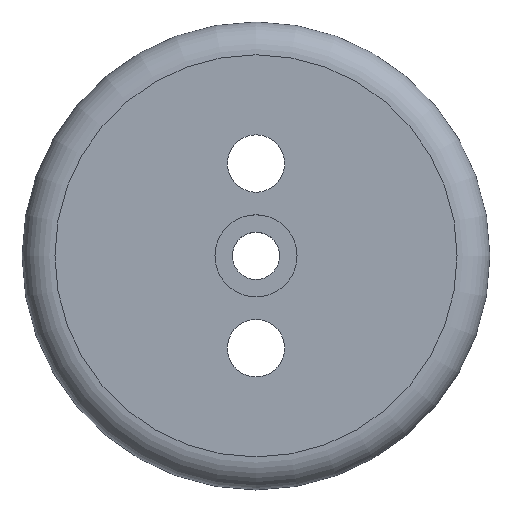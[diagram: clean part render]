
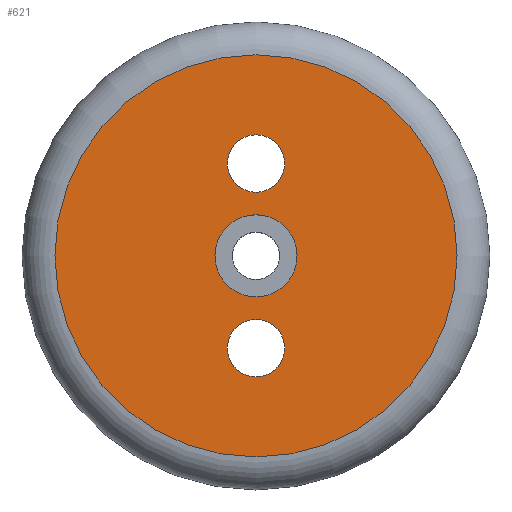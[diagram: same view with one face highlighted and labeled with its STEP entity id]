
A CAD part, top view. The second image highlights one B-rep face of the part: STEP entity #621.
In plain terms, the highlighted planar face has unit normal (0, 0, 1).
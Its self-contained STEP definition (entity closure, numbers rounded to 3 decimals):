
#254 = CYLINDRICAL_SURFACE('',#255,7.);
#255 = AXIS2_PLACEMENT_3D('',#256,#257,#258);
#256 = CARTESIAN_POINT('',(0.,-22.5,1.));
#257 = DIRECTION('',(0.,0.,-1.));
#258 = DIRECTION('',(-1.,0.,-0.));
#292 = CYLINDRICAL_SURFACE('',#293,7.);
#293 = AXIS2_PLACEMENT_3D('',#294,#295,#296);
#294 = CARTESIAN_POINT('',(0.,22.5,1.));
#295 = DIRECTION('',(0.,0.,-1.));
#296 = DIRECTION('',(-1.,0.,-0.));
#424 = VERTEX_POINT('',#425);
#425 = CARTESIAN_POINT('',(-7.,-22.5,0.));
#446 = EDGE_CURVE('',#424,#424,#447,.T.);
#447 = SURFACE_CURVE('',#448,(#453,#460),.PCURVE_S1.);
#448 = CIRCLE('',#449,7.);
#449 = AXIS2_PLACEMENT_3D('',#450,#451,#452);
#450 = CARTESIAN_POINT('',(0.,-22.5,0.));
#451 = DIRECTION('',(0.,0.,-1.));
#452 = DIRECTION('',(-1.,0.,-0.));
#453 = PCURVE('',#254,#454);
#454 = DEFINITIONAL_REPRESENTATION('',(#455),#459);
#455 = LINE('',#456,#457);
#456 = CARTESIAN_POINT('',(0.,1.));
#457 = VECTOR('',#458,1.);
#458 = DIRECTION('',(1.,0.));
#459 = ( GEOMETRIC_REPRESENTATION_CONTEXT(2) 
PARAMETRIC_REPRESENTATION_CONTEXT() REPRESENTATION_CONTEXT('2D SPACE',''
  ) );
#460 = PCURVE('',#461,#466);
#461 = PLANE('',#462);
#462 = AXIS2_PLACEMENT_3D('',#463,#464,#465);
#463 = CARTESIAN_POINT('',(0.,0.,0.));
#464 = DIRECTION('',(0.,0.,1.));
#465 = DIRECTION('',(1.,0.,-0.));
#466 = DEFINITIONAL_REPRESENTATION('',(#467),#475);
#467 = ( BOUNDED_CURVE() B_SPLINE_CURVE(2,(#468,#469,#470,#471,#472,#473
,#474),.UNSPECIFIED.,.T.,.F.) B_SPLINE_CURVE_WITH_KNOTS((1,2,2,2,2,1),(
    -2.094,0.,2.094,4.189,6.283,
8.378),.UNSPECIFIED.) CURVE() GEOMETRIC_REPRESENTATION_ITEM() 
RATIONAL_B_SPLINE_CURVE((1.,0.5,1.,0.5,1.,0.5,1.)) REPRESENTATION_ITEM(
  '') );
#468 = CARTESIAN_POINT('',(-7.,-22.5));
#469 = CARTESIAN_POINT('',(-7.,-10.376));
#470 = CARTESIAN_POINT('',(3.5,-16.438));
#471 = CARTESIAN_POINT('',(14.,-22.5));
#472 = CARTESIAN_POINT('',(3.5,-28.562));
#473 = CARTESIAN_POINT('',(-7.,-34.624));
#474 = CARTESIAN_POINT('',(-7.,-22.5));
#475 = ( GEOMETRIC_REPRESENTATION_CONTEXT(2) 
PARAMETRIC_REPRESENTATION_CONTEXT() REPRESENTATION_CONTEXT('2D SPACE',''
  ) );
#483 = VERTEX_POINT('',#484);
#484 = CARTESIAN_POINT('',(-7.,22.5,0.));
#505 = EDGE_CURVE('',#483,#483,#506,.T.);
#506 = SURFACE_CURVE('',#507,(#512,#519),.PCURVE_S1.);
#507 = CIRCLE('',#508,7.);
#508 = AXIS2_PLACEMENT_3D('',#509,#510,#511);
#509 = CARTESIAN_POINT('',(0.,22.5,0.));
#510 = DIRECTION('',(0.,0.,-1.));
#511 = DIRECTION('',(-1.,0.,-0.));
#512 = PCURVE('',#292,#513);
#513 = DEFINITIONAL_REPRESENTATION('',(#514),#518);
#514 = LINE('',#515,#516);
#515 = CARTESIAN_POINT('',(0.,1.));
#516 = VECTOR('',#517,1.);
#517 = DIRECTION('',(1.,0.));
#518 = ( GEOMETRIC_REPRESENTATION_CONTEXT(2) 
PARAMETRIC_REPRESENTATION_CONTEXT() REPRESENTATION_CONTEXT('2D SPACE',''
  ) );
#519 = PCURVE('',#461,#520);
#520 = DEFINITIONAL_REPRESENTATION('',(#521),#529);
#521 = ( BOUNDED_CURVE() B_SPLINE_CURVE(2,(#522,#523,#524,#525,#526,#527
,#528),.UNSPECIFIED.,.T.,.F.) B_SPLINE_CURVE_WITH_KNOTS((1,2,2,2,2,1),(
    -2.094,0.,2.094,4.189,6.283,
8.378),.UNSPECIFIED.) CURVE() GEOMETRIC_REPRESENTATION_ITEM() 
RATIONAL_B_SPLINE_CURVE((1.,0.5,1.,0.5,1.,0.5,1.)) REPRESENTATION_ITEM(
  '') );
#522 = CARTESIAN_POINT('',(-7.,22.5));
#523 = CARTESIAN_POINT('',(-7.,34.624));
#524 = CARTESIAN_POINT('',(3.5,28.562));
#525 = CARTESIAN_POINT('',(14.,22.5));
#526 = CARTESIAN_POINT('',(3.5,16.438));
#527 = CARTESIAN_POINT('',(-7.,10.376));
#528 = CARTESIAN_POINT('',(-7.,22.5));
#529 = ( GEOMETRIC_REPRESENTATION_CONTEXT(2) 
PARAMETRIC_REPRESENTATION_CONTEXT() REPRESENTATION_CONTEXT('2D SPACE',''
  ) );
#552 = CYLINDRICAL_SURFACE('',#553,10.);
#553 = AXIS2_PLACEMENT_3D('',#554,#555,#556);
#554 = CARTESIAN_POINT('',(0.,0.,-0.5));
#555 = DIRECTION('',(0.,0.,1.));
#556 = DIRECTION('',(1.,0.,-0.));
#621 = ADVANCED_FACE('',(#622,#653,#656,#682),#461,.T.);
#622 = FACE_BOUND('',#623,.F.);
#623 = EDGE_LOOP('',(#624));
#624 = ORIENTED_EDGE('',*,*,#625,.F.);
#625 = EDGE_CURVE('',#626,#626,#628,.T.);
#626 = VERTEX_POINT('',#627);
#627 = CARTESIAN_POINT('',(49.,0.,0.));
#628 = SURFACE_CURVE('',#629,(#634,#641),.PCURVE_S1.);
#629 = CIRCLE('',#630,49.);
#630 = AXIS2_PLACEMENT_3D('',#631,#632,#633);
#631 = CARTESIAN_POINT('',(0.,0.,0.));
#632 = DIRECTION('',(0.,0.,1.));
#633 = DIRECTION('',(1.,0.,-0.));
#634 = PCURVE('',#461,#635);
#635 = DEFINITIONAL_REPRESENTATION('',(#636),#640);
#636 = CIRCLE('',#637,49.);
#637 = AXIS2_PLACEMENT_2D('',#638,#639);
#638 = CARTESIAN_POINT('',(0.,0.));
#639 = DIRECTION('',(1.,-0.));
#640 = ( GEOMETRIC_REPRESENTATION_CONTEXT(2) 
PARAMETRIC_REPRESENTATION_CONTEXT() REPRESENTATION_CONTEXT('2D SPACE',''
  ) );
#641 = PCURVE('',#642,#647);
#642 = TOROIDAL_SURFACE('',#643,49.,8.);
#643 = AXIS2_PLACEMENT_3D('',#644,#645,#646);
#644 = CARTESIAN_POINT('',(0.,0.,-8.));
#645 = DIRECTION('',(-0.,-0.,-1.));
#646 = DIRECTION('',(1.,0.,-0.));
#647 = DEFINITIONAL_REPRESENTATION('',(#648),#652);
#648 = LINE('',#649,#650);
#649 = CARTESIAN_POINT('',(-0.,4.712));
#650 = VECTOR('',#651,1.);
#651 = DIRECTION('',(-1.,0.));
#652 = ( GEOMETRIC_REPRESENTATION_CONTEXT(2) 
PARAMETRIC_REPRESENTATION_CONTEXT() REPRESENTATION_CONTEXT('2D SPACE',''
  ) );
#653 = FACE_BOUND('',#654,.F.);
#654 = EDGE_LOOP('',(#655));
#655 = ORIENTED_EDGE('',*,*,#446,.F.);
#656 = FACE_BOUND('',#657,.F.);
#657 = EDGE_LOOP('',(#658));
#658 = ORIENTED_EDGE('',*,*,#659,.T.);
#659 = EDGE_CURVE('',#660,#660,#662,.T.);
#660 = VERTEX_POINT('',#661);
#661 = CARTESIAN_POINT('',(10.,0.,0.));
#662 = SURFACE_CURVE('',#663,(#668,#675),.PCURVE_S1.);
#663 = CIRCLE('',#664,10.);
#664 = AXIS2_PLACEMENT_3D('',#665,#666,#667);
#665 = CARTESIAN_POINT('',(0.,0.,0.));
#666 = DIRECTION('',(0.,0.,1.));
#667 = DIRECTION('',(1.,0.,-0.));
#668 = PCURVE('',#461,#669);
#669 = DEFINITIONAL_REPRESENTATION('',(#670),#674);
#670 = CIRCLE('',#671,10.);
#671 = AXIS2_PLACEMENT_2D('',#672,#673);
#672 = CARTESIAN_POINT('',(0.,0.));
#673 = DIRECTION('',(1.,-0.));
#674 = ( GEOMETRIC_REPRESENTATION_CONTEXT(2) 
PARAMETRIC_REPRESENTATION_CONTEXT() REPRESENTATION_CONTEXT('2D SPACE',''
  ) );
#675 = PCURVE('',#552,#676);
#676 = DEFINITIONAL_REPRESENTATION('',(#677),#681);
#677 = LINE('',#678,#679);
#678 = CARTESIAN_POINT('',(0.,0.5));
#679 = VECTOR('',#680,1.);
#680 = DIRECTION('',(1.,0.));
#681 = ( GEOMETRIC_REPRESENTATION_CONTEXT(2) 
PARAMETRIC_REPRESENTATION_CONTEXT() REPRESENTATION_CONTEXT('2D SPACE',''
  ) );
#682 = FACE_BOUND('',#683,.F.);
#683 = EDGE_LOOP('',(#684));
#684 = ORIENTED_EDGE('',*,*,#505,.F.);
